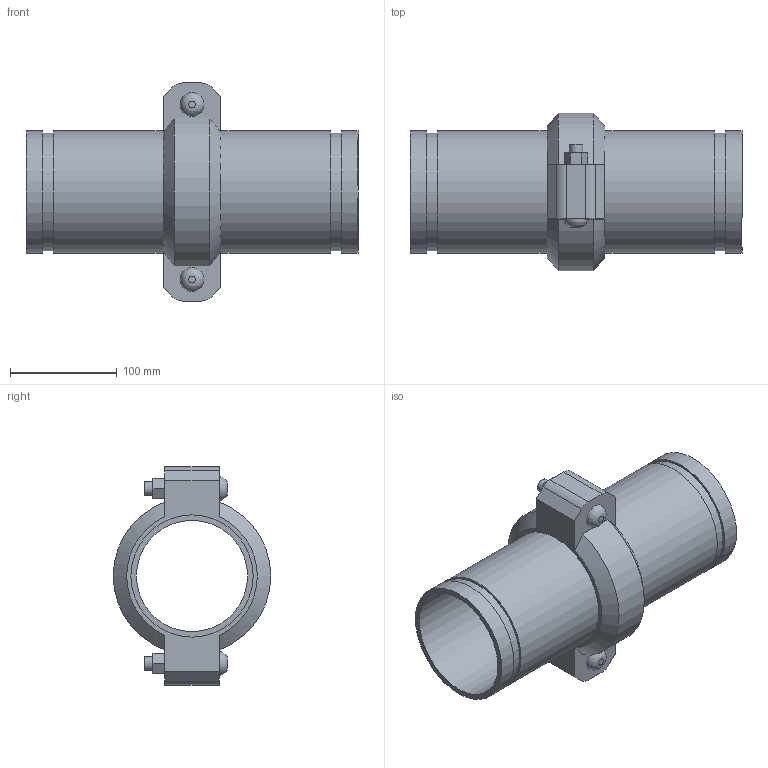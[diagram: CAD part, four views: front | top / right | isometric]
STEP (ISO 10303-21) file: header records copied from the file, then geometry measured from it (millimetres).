
FILE_DESCRIPTION(/* description */ ('VIC SS EXPANSION JOINT 1 COUPLING EXPANDED STYLE 155P (OGS) (POTABLE WATER) ','CAx-IF Rec.Pracs.---Representation and Presentation of Product Manufacturing Information (PMI)---4.0---2014-10-13'),/* implementation_level */ '2;1');
FILE_NAME(/* name */ 'C:\Users\kkamble\AppData\Roaming\Autodesk\ApplicationPlugins\Victaulic.Temp\A607\Victaulic_SS_Expansion Joint_Expanded_1 Coupling_Style 155P (OGS)-Potable Water_1 Coup_Expd_4 (100).stp',/* time_stamp */ '2021-07-16T16:43:38+05:00',/* author */ ('kkamble'),/* organization */ ('Victaulic'),/* preprocessor_version */ 'ST-DEVELOPER v17.2',/* originating_system */ 'Autodesk Inventor 2019',/* authorisation */ '');
FILE_SCHEMA (('AP242_MANAGED_MODEL_BASED_3D_ENGINEERING_MIM_LF { 1 0 10303 442 1 1 4 }'));
Length unit declared in the file: inch
Products named in the file (3): 155P-04.0; Nipple-04.0; 075-04.0
Assembly tree (3 placements, depth 2):
  155P-04.0
    Nipple-04.0  x2
    075-04.0
Bounding box: 310.39 x 147.32 x 203.96 mm (x, y, z)
Volume: 997987.7 mm3; surface area: 301076.7 mm2
Topology: 3 solids, 5 shells, 81 faces, 193 edges, 138 vertices
Faces by surface type: plane 48, cylinder 27, cone 4, bspline 2
Full cylindrical faces by diameter (mm): 12.7 x4, 14.605 x2, 103.988 x2, 107.95 x1, 110.084 x4, 114.3 x8
Entity records: 2292 total; most frequent: CARTESIAN_POINT 420, DIRECTION 369, ORIENTED_EDGE 326, EDGE_CURVE 163, AXIS2_PLACEMENT_3D 141, VERTEX_POINT 114, EDGE_LOOP 89, LINE 87
